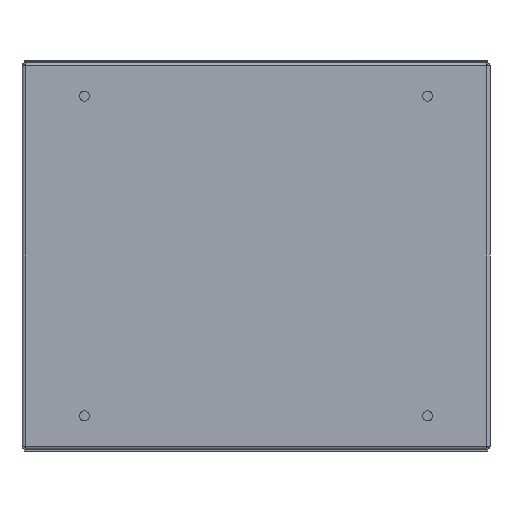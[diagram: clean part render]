
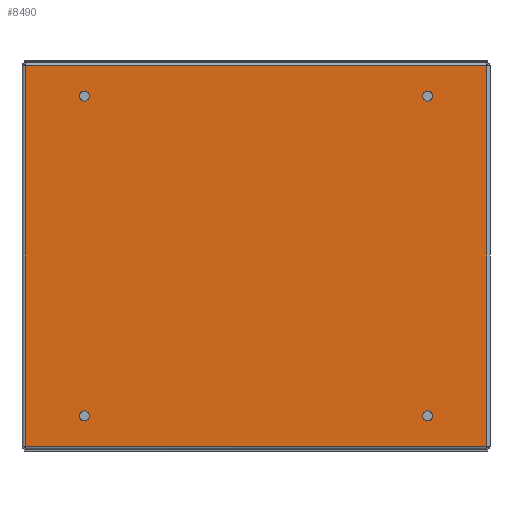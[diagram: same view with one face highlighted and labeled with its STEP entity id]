
A CAD part, front view. The second image highlights one B-rep face of the part: STEP entity #8490.
In plain terms, the highlighted planar face has unit normal (0, -1, 0).
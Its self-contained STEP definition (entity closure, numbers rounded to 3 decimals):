
#59 = CARTESIAN_POINT ( 'NONE',  ( 106.75, 0., 102.5 ) ) ;
#81 = CARTESIAN_POINT ( 'NONE',  ( -110., 0., 102.5 ) ) ;
#115 = EDGE_LOOP ( 'NONE', ( #2427, #8893 ) ) ;
#130 = AXIS2_PLACEMENT_3D ( 'NONE', #4090, #10069, #3959 ) ;
#248 = VERTEX_POINT ( 'NONE', #10536 ) ;
#257 = ORIENTED_EDGE ( 'NONE', *, *, #11859, .T. ) ;
#305 = CARTESIAN_POINT ( 'NONE',  ( 147.8, 0., 121.8 ) ) ;
#331 = DIRECTION ( 'NONE',  ( 0., 1., 0. ) ) ;
#349 = AXIS2_PLACEMENT_3D ( 'NONE', #3826, #4831, #10847 ) ;
#360 = AXIS2_PLACEMENT_3D ( 'NONE', #9329, #7404, #3187 ) ;
#673 = DIRECTION ( 'NONE',  ( 0., 0., 1. ) ) ;
#1270 = CARTESIAN_POINT ( 'NONE',  ( -113.25, 0., 102.5 ) ) ;
#1300 = EDGE_CURVE ( 'NONE', #10346, #4032, #11344, .T. ) ;
#1472 = VERTEX_POINT ( 'NONE', #9911 ) ;
#1486 = AXIS2_PLACEMENT_3D ( 'NONE', #8256, #10283, #7596 ) ;
#1531 = CARTESIAN_POINT ( 'NONE',  ( 110., 0., -102.5 ) ) ;
#2040 = DIRECTION ( 'NONE',  ( 1., 0., 0. ) ) ;
#2384 = PLANE ( 'NONE',  #5499 ) ;
#2427 = ORIENTED_EDGE ( 'NONE', *, *, #5067, .T. ) ;
#2695 = CARTESIAN_POINT ( 'NONE',  ( -147.8, 0., -121.8 ) ) ;
#2776 = ORIENTED_EDGE ( 'NONE', *, *, #11472, .T. ) ;
#3187 = DIRECTION ( 'NONE',  ( 1., 0., 0. ) ) ;
#3217 = VECTOR ( 'NONE', #7318, 1000. ) ;
#3458 = ORIENTED_EDGE ( 'NONE', *, *, #1300, .T. ) ;
#3499 = DIRECTION ( 'NONE',  ( -1., 0., 0. ) ) ;
#3544 = FACE_BOUND ( 'NONE', #7503, .T. ) ;
#3626 = DIRECTION ( 'NONE',  ( 0., 1., 0. ) ) ;
#3707 = FACE_OUTER_BOUND ( 'NONE', #6833, .T. ) ;
#3826 = CARTESIAN_POINT ( 'NONE',  ( -110., 0., -102.5 ) ) ;
#3847 = ORIENTED_EDGE ( 'NONE', *, *, #4609, .T. ) ;
#3959 = DIRECTION ( 'NONE',  ( 1., 0., 0. ) ) ;
#3980 = CIRCLE ( 'NONE', #1486, 3.25 ) ;
#4029 = CARTESIAN_POINT ( 'NONE',  ( -147.8, 0., 121.8 ) ) ;
#4032 = VERTEX_POINT ( 'NONE', #9542 ) ;
#4090 = CARTESIAN_POINT ( 'NONE',  ( -110., 0., 102.5 ) ) ;
#4095 = CARTESIAN_POINT ( 'NONE',  ( 147.8, 0., -121.8 ) ) ;
#4101 = DIRECTION ( 'NONE',  ( 0., 1., 0. ) ) ;
#4427 = DIRECTION ( 'NONE',  ( 0., -1., 0. ) ) ;
#4609 = EDGE_CURVE ( 'NONE', #10510, #8577, #9197, .T. ) ;
#4611 = VERTEX_POINT ( 'NONE', #1270 ) ;
#4644 = ORIENTED_EDGE ( 'NONE', *, *, #6488, .T. ) ;
#4762 = CIRCLE ( 'NONE', #10446, 3.25 ) ;
#4831 = DIRECTION ( 'NONE',  ( 0., 1., 0. ) ) ;
#4898 = VERTEX_POINT ( 'NONE', #8003 ) ;
#4941 = EDGE_LOOP ( 'NONE', ( #6343, #257 ) ) ;
#4960 = ORIENTED_EDGE ( 'NONE', *, *, #5907, .F. ) ;
#5030 = VECTOR ( 'NONE', #12605, 1000. ) ;
#5067 = EDGE_CURVE ( 'NONE', #4898, #9736, #3980, .T. ) ;
#5499 = AXIS2_PLACEMENT_3D ( 'NONE', #9515, #4427, #3499 ) ;
#5572 = AXIS2_PLACEMENT_3D ( 'NONE', #11237, #331, #7226 ) ;
#5588 = FACE_BOUND ( 'NONE', #4941, .T. ) ;
#5907 = EDGE_CURVE ( 'NONE', #10346, #8577, #9586, .T. ) ;
#5917 = CIRCLE ( 'NONE', #5572, 3.25 ) ;
#5998 = DIRECTION ( 'NONE',  ( 0., 1., 0. ) ) ;
#6099 = VERTEX_POINT ( 'NONE', #7260 ) ;
#6151 = DIRECTION ( 'NONE',  ( -1., 0., 0. ) ) ;
#6343 = ORIENTED_EDGE ( 'NONE', *, *, #12946, .T. ) ;
#6458 = CIRCLE ( 'NONE', #349, 3.25 ) ;
#6488 = EDGE_CURVE ( 'NONE', #248, #7642, #5917, .T. ) ;
#6798 = VECTOR ( 'NONE', #9974, 1000. ) ;
#6833 = EDGE_LOOP ( 'NONE', ( #3458, #2776, #3847, #4960 ) ) ;
#7175 = CARTESIAN_POINT ( 'NONE',  ( 110., 0., 102.5 ) ) ;
#7226 = DIRECTION ( 'NONE',  ( -1., 0., 0. ) ) ;
#7260 = CARTESIAN_POINT ( 'NONE',  ( -113.25, 0., -102.5 ) ) ;
#7318 = DIRECTION ( 'NONE',  ( -1., 0., 0. ) ) ;
#7404 = DIRECTION ( 'NONE',  ( 0., 1., 0. ) ) ;
#7503 = EDGE_LOOP ( 'NONE', ( #12697, #4644 ) ) ;
#7534 = VECTOR ( 'NONE', #673, 1000. ) ;
#7596 = DIRECTION ( 'NONE',  ( -1., 0., 0. ) ) ;
#7605 = EDGE_CURVE ( 'NONE', #7642, #248, #4762, .T. ) ;
#7642 = VERTEX_POINT ( 'NONE', #59 ) ;
#7744 = CARTESIAN_POINT ( 'NONE',  ( -106.75, 0., 102.5 ) ) ;
#7926 = FACE_BOUND ( 'NONE', #115, .T. ) ;
#7979 = ORIENTED_EDGE ( 'NONE', *, *, #11837, .T. ) ;
#8003 = CARTESIAN_POINT ( 'NONE',  ( 106.75, 0., -102.5 ) ) ;
#8042 = CIRCLE ( 'NONE', #360, 3.25 ) ;
#8199 = CIRCLE ( 'NONE', #9942, 3.25 ) ;
#8256 = CARTESIAN_POINT ( 'NONE',  ( 110., 0., -102.5 ) ) ;
#8490 = ADVANCED_FACE ( 'NONE', ( #3707, #9547, #5588, #3544, #7926 ), #2384, .T. ) ;
#8577 = VERTEX_POINT ( 'NONE', #4029 ) ;
#8686 = EDGE_CURVE ( 'NONE', #1472, #6099, #8042, .T. ) ;
#8893 = ORIENTED_EDGE ( 'NONE', *, *, #12706, .T. ) ;
#9197 = LINE ( 'NONE', #305, #3217 ) ;
#9329 = CARTESIAN_POINT ( 'NONE',  ( -110., 0., -102.5 ) ) ;
#9515 = CARTESIAN_POINT ( 'NONE',  ( -147.8, 0., -124. ) ) ;
#9542 = CARTESIAN_POINT ( 'NONE',  ( 147.8, 0., -121.8 ) ) ;
#9547 = FACE_BOUND ( 'NONE', #12821, .T. ) ;
#9586 = LINE ( 'NONE', #12883, #7534 ) ;
#9736 = VERTEX_POINT ( 'NONE', #12563 ) ;
#9911 = CARTESIAN_POINT ( 'NONE',  ( -106.75, 0., -102.5 ) ) ;
#9942 = AXIS2_PLACEMENT_3D ( 'NONE', #81, #5998, #2040 ) ;
#9974 = DIRECTION ( 'NONE',  ( 0., 0., 1. ) ) ;
#10069 = DIRECTION ( 'NONE',  ( 0., 1., 0. ) ) ;
#10283 = DIRECTION ( 'NONE',  ( 0., 1., 0. ) ) ;
#10285 = CIRCLE ( 'NONE', #11167, 3.25 ) ;
#10346 = VERTEX_POINT ( 'NONE', #11914 ) ;
#10446 = AXIS2_PLACEMENT_3D ( 'NONE', #7175, #4101, #6151 ) ;
#10510 = VERTEX_POINT ( 'NONE', #11179 ) ;
#10525 = DIRECTION ( 'NONE',  ( -1., 0., 0. ) ) ;
#10536 = CARTESIAN_POINT ( 'NONE',  ( 113.25, 0., 102.5 ) ) ;
#10587 = LINE ( 'NONE', #4095, #6798 ) ;
#10647 = ORIENTED_EDGE ( 'NONE', *, *, #8686, .T. ) ;
#10847 = DIRECTION ( 'NONE',  ( 1., 0., 0. ) ) ;
#11167 = AXIS2_PLACEMENT_3D ( 'NONE', #1531, #3626, #10525 ) ;
#11179 = CARTESIAN_POINT ( 'NONE',  ( 147.8, 0., 121.8 ) ) ;
#11237 = CARTESIAN_POINT ( 'NONE',  ( 110., 0., 102.5 ) ) ;
#11344 = LINE ( 'NONE', #2695, #5030 ) ;
#11472 = EDGE_CURVE ( 'NONE', #4032, #10510, #10587, .T. ) ;
#11837 = EDGE_CURVE ( 'NONE', #6099, #1472, #6458, .T. ) ;
#11840 = CIRCLE ( 'NONE', #130, 3.25 ) ;
#11859 = EDGE_CURVE ( 'NONE', #4611, #12905, #8199, .T. ) ;
#11914 = CARTESIAN_POINT ( 'NONE',  ( -147.8, 0., -121.8 ) ) ;
#12563 = CARTESIAN_POINT ( 'NONE',  ( 113.25, 0., -102.5 ) ) ;
#12605 = DIRECTION ( 'NONE',  ( 1., 0., 0. ) ) ;
#12697 = ORIENTED_EDGE ( 'NONE', *, *, #7605, .T. ) ;
#12706 = EDGE_CURVE ( 'NONE', #9736, #4898, #10285, .T. ) ;
#12821 = EDGE_LOOP ( 'NONE', ( #10647, #7979 ) ) ;
#12883 = CARTESIAN_POINT ( 'NONE',  ( -147.8, 0., -121.8 ) ) ;
#12905 = VERTEX_POINT ( 'NONE', #7744 ) ;
#12946 = EDGE_CURVE ( 'NONE', #12905, #4611, #11840, .T. ) ;
